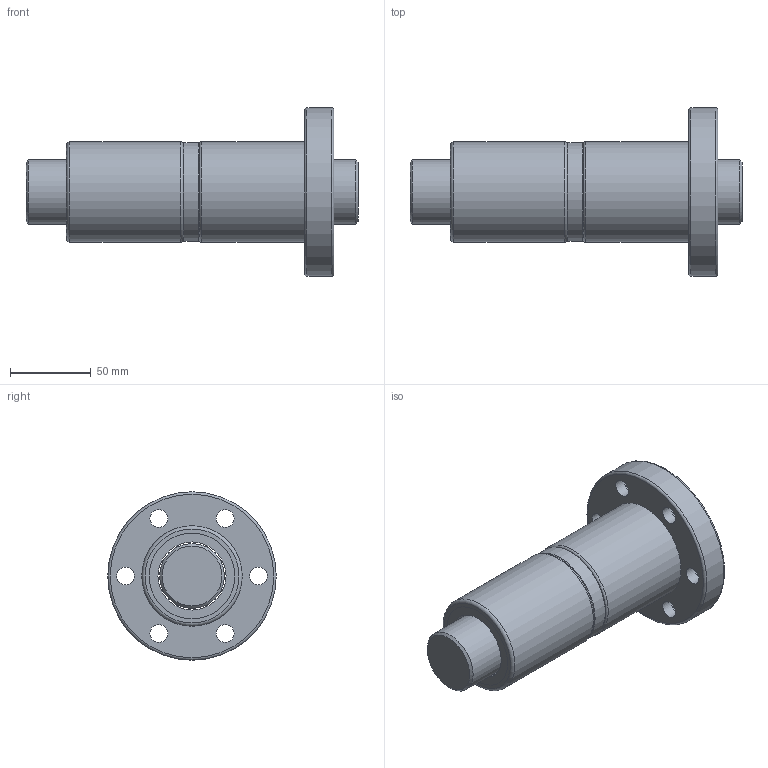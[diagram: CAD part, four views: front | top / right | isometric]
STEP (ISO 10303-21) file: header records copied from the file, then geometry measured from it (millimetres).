
FILE_DESCRIPTION(/* description */ (''),/* implementation_level */ '2;1');
FILE_NAME(/* name */ 'DFI4010',/* time_stamp */ '2007-10-26T11:52:12+08:00',/* author */ (''),/* organization */ (''),/* preprocessor_version */ 'ST-DEVELOPER v9',/* originating_system */ 'EDS PLM SOLUTIONS - UNIGRAPHICS NX 1.0',/* authorisation */ '');
FILE_SCHEMA (('CONFIG_CONTROL_DESIGN'));
Length unit declared in the file: millimetre
Products named in the file (1): FANNDA0400fu
Bounding box: 205 x 104 x 104 mm (x, y, z)
Volume: 603930.8 mm3; surface area: 115152.8 mm2
Topology: 6 solids, 6 shells, 56 faces, 101 edges, 66 vertices
Faces by surface type: cylinder 26, plane 21, torus 7, cone 2
Full cylindrical faces by diameter (mm): 11 x6, 17.5 x6, 40 x1, 42 x5, 53 x4, 61 x1, 62 x2, 104 x1
Entity records: 1294 total; most frequent: DIRECTION 236, CARTESIAN_POINT 179, EDGE_LOOP 122, ORIENTED_EDGE 122, AXIS2_PLACEMENT_3D 118, FACE_BOUND 99, VERTEX_POINT 61, EDGE_CURVE 61
